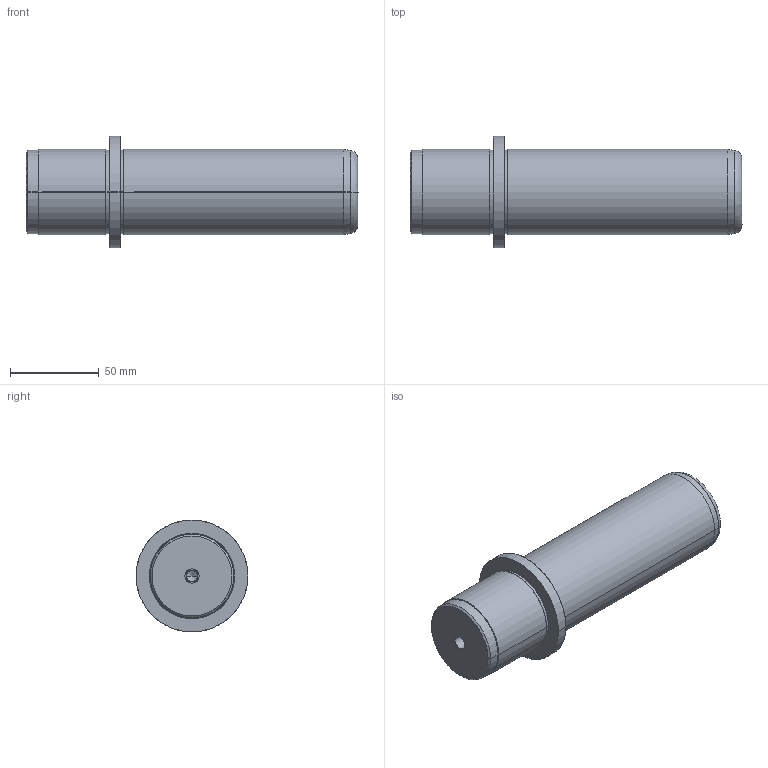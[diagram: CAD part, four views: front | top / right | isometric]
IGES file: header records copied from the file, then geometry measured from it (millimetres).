
Start section: SolidWorks IGES FILE using analytic representation for surfaces
Global section: file name: D:\zzzzz\Delta\D06\48\D06 - 48x140x47.IGS; native system: SolidWorks 2004 by SolidWorks Corporation; preprocessor: Version 5.3; author: Hkn; date: 080327.151231; units: millimetre
Bounding box: 187 x 63 x 63 mm (x, y, z)
Surface area: 35671.2 mm2 (no closed solid volume)
Topology: 0 solids, 0 shells, 39 faces, 1080 edges, 1076 vertices
Faces by surface type: revolution 28, bspline 11
